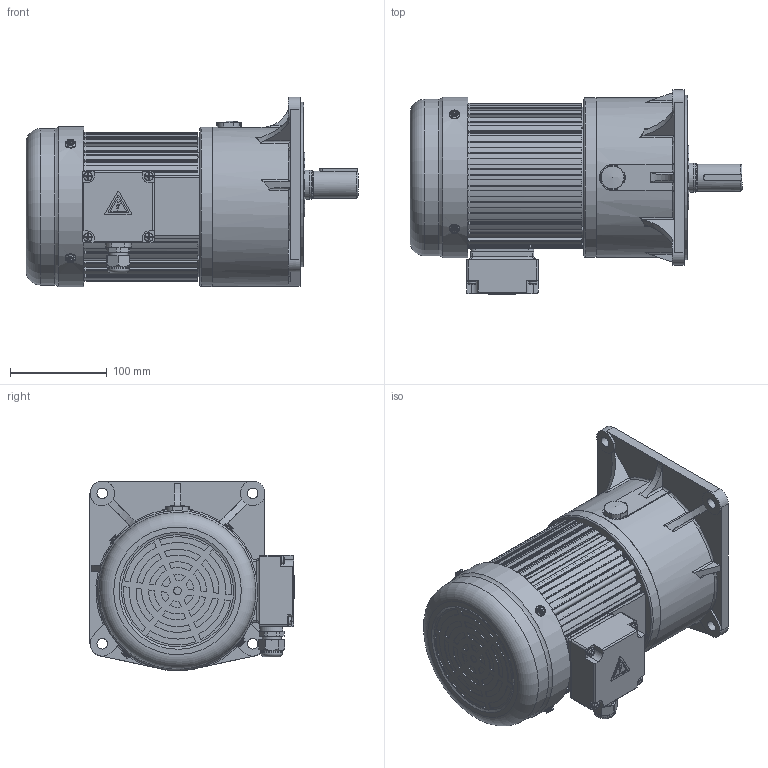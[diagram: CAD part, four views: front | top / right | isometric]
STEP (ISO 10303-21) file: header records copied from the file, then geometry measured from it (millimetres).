
FILE_DESCRIPTION(/* description */ (''),/* implementation_level */ '2;1');
FILE_NAME(/* name */ 'PST00001148_A0-小型交流减速电机-343.5_181.1_196-Φ28_60_K7-CV28-400-50S2-G1-LD_T1.stp',/* time_stamp */ '2025-04-23T08:23:40+08:00',/* author */ (''),/* organization */ (''),/* preprocessor_version */ 'ST-DEVELOPER v18.102',/* originating_system */ 'SIEMENS PLM Software NX 2027',/* authorisation */ '');
FILE_SCHEMA (('AP203_CONFIGURATION_CONTROLLED_3D_DESIGN_OF_MECHANICAL_PARTS_AND_ASSEMBLIES_MIM_LF { 1 0 10303 403 2 1 2}'));
Length unit declared in the file: millimetre
Products named in the file (1): A0_objects
Bounding box: 343.5 x 211.08 x 196.45 mm (x, y, z)
Volume: 5882447.2 mm3; surface area: 451207 mm2
Topology: 5 solids, 5 shells, 2138 faces, 5603 edges, 3578 vertices
Faces by surface type: plane 1058, cylinder 577, cone 234, bspline 126, torus 96, revolution 30, sphere 17
Full cylindrical faces by diameter (mm): 1 x1, 1.8 x1, 3 x2, 4 x1, 4.2 x12, 4.6 x4, 4.826 x2, 5 x6, 5.795 x5, 6.2 x5, 6.4 x4, 7 x8, 8 x1, 8.5 x4, 9 x4, 10 x5, 11 x13, 16.678 x1, 17 x1, 20 x3, 21 x1, 22.5 x1, 25.5 x2, 27.6 x1, 28 x1, 30 x2, 45 x1, 58 x1, 66 x1, 75 x1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
Entity records: 70342 total; most frequent: CARTESIAN_POINT 19462, ORIENTED_EDGE 10690, DIRECTION 10270, EDGE_CURVE 5345, AXIS2_PLACEMENT_3D 3871, VERTEX_POINT 3501, LINE 2498, VECTOR 2498
